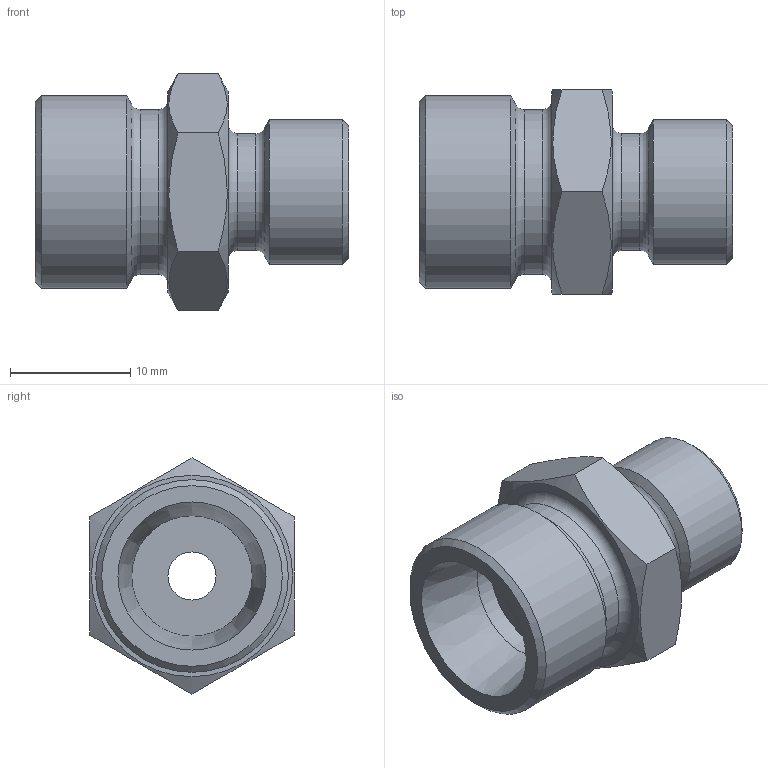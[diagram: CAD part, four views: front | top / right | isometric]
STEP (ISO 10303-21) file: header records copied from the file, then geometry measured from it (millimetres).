
FILE_DESCRIPTION( ( 'Unknown' ), '1' );
FILE_NAME( 'C:/Users/p.nanko/Desktop/3D SR/XGR1006L.stp', 'Unknown', ( 'Peter Nanko' ), ( 'Armaturen Arndt' ), 'PSStep 14.0', 'Solid Edge ST4', ' ' );
FILE_SCHEMA( ( 'AUTOMOTIVE_DESIGN { 1 0 10303 214 1 1 1 1 }' ) );
Length unit declared in the file: millimetre
Products named in the file (1): 1
Bounding box: 26 x 17 x 19.63 mm (x, y, z)
Volume: 3234.3 mm3; surface area: 2195.5 mm2
Topology: 1 solids, 1 shells, 31 faces, 64 edges, 39 vertices
Faces by surface type: plane 12, cone 8, cylinder 7, torus 4
Full cylindrical faces by diameter (mm): 4 x1, 6 x1, 9.7 x1, 10 x1, 12 x1, 13.7 x1, 16 x1
Entity records: 1060 total; most frequent: CARTESIAN_POINT 234, DIRECTION 118, ORIENTED_EDGE 84, AXIS2_PLACEMENT_3D 56, EDGE_LOOP 56, FACE_OUTER_BOUND 42, EDGE_CURVE 42, VERTEX_POINT 36
